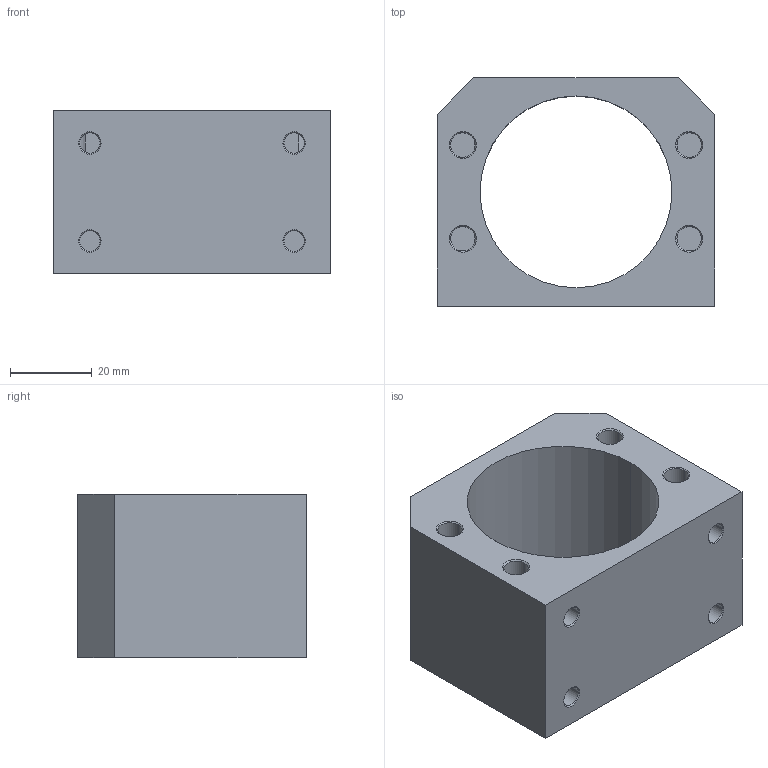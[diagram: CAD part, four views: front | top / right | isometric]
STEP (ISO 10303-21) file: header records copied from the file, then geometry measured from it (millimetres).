
FILE_DESCRIPTION (( 'STEP AP214' ), '1' );
FILE_NAME ('DSG2525.STEP', '2022-04-21T10:39:24', ( '' ), ( '' ), 'SwSTEP 2.0', 'SolidWorks 2019', '' );
FILE_SCHEMA (( 'AUTOMOTIVE_DESIGN' ));
Length unit declared in the file: millimetre
Products named in the file (1): DSG2525
Bounding box: 68 x 56 x 40 mm (x, y, z)
Volume: 77312.8 mm3; surface area: 21068 mm2
Topology: 1 solids, 1 shells, 50 faces, 118 edges, 76 vertices
Faces by surface type: cylinder 18, cone 16, plane 16
Entity records: 1712 total; most frequent: CARTESIAN_POINT 285, DIRECTION 276, ORIENTED_EDGE 236, EDGE_CURVE 118, AXIS2_PLACEMENT_3D 111, VERTEX_POINT 76, EDGE_LOOP 62, CIRCLE 60
